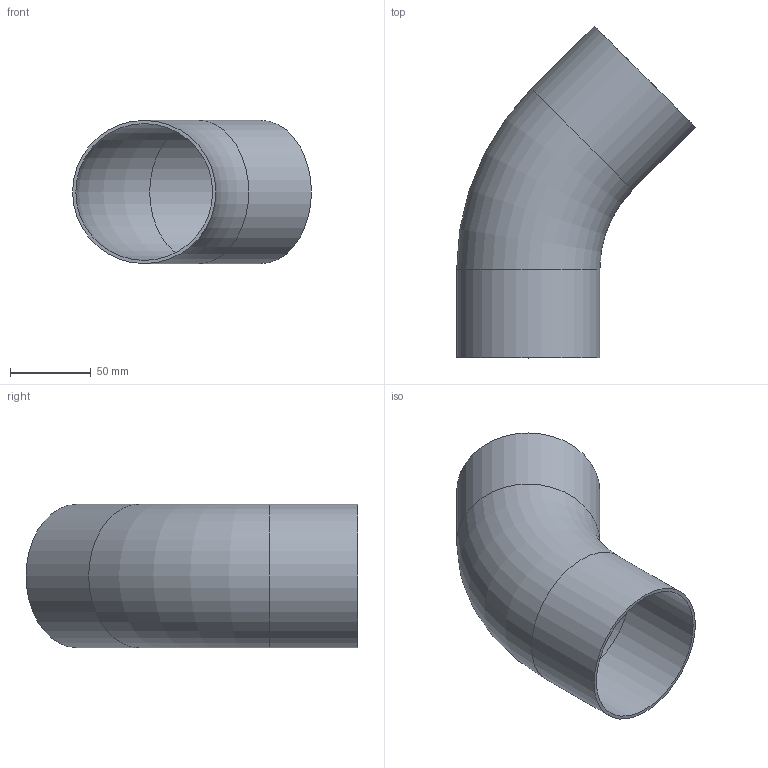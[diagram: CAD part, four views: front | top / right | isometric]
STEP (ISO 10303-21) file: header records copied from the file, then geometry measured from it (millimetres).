
FILE_DESCRIPTION(/* description */ (''),/* implementation_level */ '2;1');
FILE_NAME(/* name */ 'C:\Users\LK_9K\Desktop\STRAUB BOGEN 45 B3 DN80.stp',/* time_stamp */ '2021-04-09T07:15:15+02:00',/* author */ ('LK_9K'),/* organization */ (''),/* preprocessor_version */ 'ST-DEVELOPER v18.1',/* originating_system */ 'Autodesk Inventor 2020',/* authorisation */ '');
FILE_SCHEMA (('AUTOMOTIVE_DESIGN { 1 0 10303 214 3 1 1 }'));
Length unit declared in the file: millimetre
Products named in the file (1): Bauteil1
Bounding box: 148.16 x 205.93 x 88.9 mm (x, y, z)
Volume: 108948.1 mm3; surface area: 110040.1 mm2
Topology: 1 solids, 1 shells, 8 faces, 20 edges, 14 vertices
Faces by surface type: cylinder 4, torus 2, plane 2
Full cylindrical faces by diameter (mm): 84.9 x2, 88.9 x2
Entity records: 301 total; most frequent: DIRECTION 54, CARTESIAN_POINT 43, ORIENTED_EDGE 40, AXIS2_PLACEMENT_3D 25, EDGE_CURVE 20, CIRCLE 16, VERTEX_POINT 14, EDGE_LOOP 10
